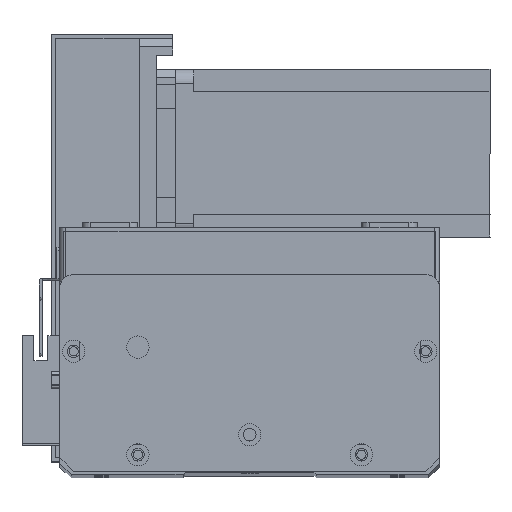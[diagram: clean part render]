
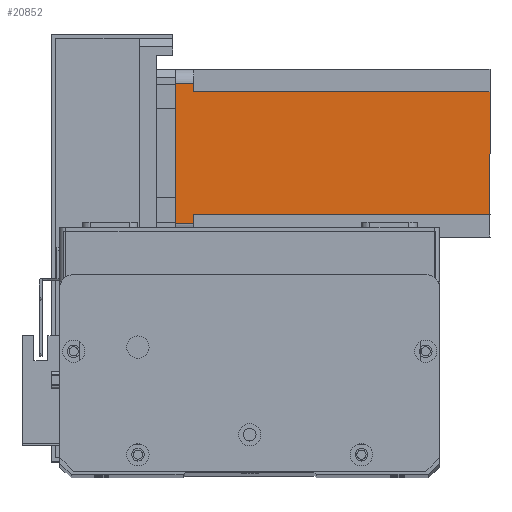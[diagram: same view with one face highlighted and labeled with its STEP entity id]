
A CAD part, top view. The second image highlights one B-rep face of the part: STEP entity #20852.
In plain terms, the highlighted planar face has unit normal (0, 0, 1) as drawn and (0, -1, 0) by its records, which use the part's own axes.
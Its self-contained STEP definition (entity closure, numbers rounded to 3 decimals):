
#745 = DIRECTION ( 'NONE',  ( 0., 0., -1. ) ) ;
#925 = VERTEX_POINT ( 'NONE', #5468 ) ;
#932 = ORIENTED_EDGE ( 'NONE', *, *, #7019, .F. ) ;
#958 = DIRECTION ( 'NONE',  ( 0., 0., 1. ) ) ;
#1188 = DIRECTION ( 'NONE',  ( 1., 0., 0. ) ) ;
#1663 = CARTESIAN_POINT ( 'NONE',  ( 52., 0., -6.5 ) ) ;
#1972 = CARTESIAN_POINT ( 'NONE',  ( 5., 0., -112.5 ) ) ;
#3390 = CARTESIAN_POINT ( 'NONE',  ( 5., 0., -6.5 ) ) ;
#3618 = VERTEX_POINT ( 'NONE', #27083 ) ;
#3734 = CARTESIAN_POINT ( 'NONE',  ( 0., 0., -112.5 ) ) ;
#3858 = ORIENTED_EDGE ( 'NONE', *, *, #14547, .F. ) ;
#3970 = VERTEX_POINT ( 'NONE', #26265 ) ;
#4247 = DIRECTION ( 'NONE',  ( 0., 0., -1. ) ) ;
#4638 = CARTESIAN_POINT ( 'NONE',  ( 55., 0., 0. ) ) ;
#4687 = VERTEX_POINT ( 'NONE', #6644 ) ;
#5468 = CARTESIAN_POINT ( 'NONE',  ( 52., 0., -112.5 ) ) ;
#5526 = ORIENTED_EDGE ( 'NONE', *, *, #27465, .T. ) ;
#6000 = CARTESIAN_POINT ( 'NONE',  ( 8., 0., -6.5 ) ) ;
#6338 = VECTOR ( 'NONE', #958, 1000. ) ;
#6644 = CARTESIAN_POINT ( 'NONE',  ( 55., 0., -6.5 ) ) ;
#7019 = EDGE_CURVE ( 'NONE', #3970, #26593, #14570, .T. ) ;
#7737 = VECTOR ( 'NONE', #8451, 1000. ) ;
#7852 = VECTOR ( 'NONE', #11626, 1000. ) ;
#7891 = ORIENTED_EDGE ( 'NONE', *, *, #10115, .T. ) ;
#8159 = PLANE ( 'NONE',  #24840 ) ;
#8451 = DIRECTION ( 'NONE',  ( 1., 0., 0. ) ) ;
#8574 = LINE ( 'NONE', #18230, #7852 ) ;
#8986 = EDGE_CURVE ( 'NONE', #17577, #925, #24347, .T. ) ;
#9236 = LINE ( 'NONE', #27829, #20382 ) ;
#10115 = EDGE_CURVE ( 'NONE', #3970, #17623, #16305, .T. ) ;
#10525 = DIRECTION ( 'NONE',  ( 0., -1., 0. ) ) ;
#10906 = ORIENTED_EDGE ( 'NONE', *, *, #8986, .F. ) ;
#11626 = DIRECTION ( 'NONE',  ( 0., 0., 1. ) ) ;
#14547 = EDGE_CURVE ( 'NONE', #23186, #3618, #8574, .T. ) ;
#14570 = LINE ( 'NONE', #17298, #19774 ) ;
#14984 = EDGE_CURVE ( 'NONE', #23186, #925, #9236, .T. ) ;
#15082 = DIRECTION ( 'NONE',  ( 1., 0., 0. ) ) ;
#15103 = VECTOR ( 'NONE', #19255, 1000. ) ;
#16305 = LINE ( 'NONE', #1972, #21555 ) ;
#17139 = EDGE_CURVE ( 'NONE', #3618, #17623, #26820, .T. ) ;
#17194 = EDGE_CURVE ( 'NONE', #17577, #4687, #26147, .T. ) ;
#17298 = CARTESIAN_POINT ( 'NONE',  ( 0., 0., 0. ) ) ;
#17577 = VERTEX_POINT ( 'NONE', #18830 ) ;
#17623 = VERTEX_POINT ( 'NONE', #3390 ) ;
#18230 = CARTESIAN_POINT ( 'NONE',  ( 8., 0., -112.5 ) ) ;
#18459 = VECTOR ( 'NONE', #745, 1000. ) ;
#18830 = CARTESIAN_POINT ( 'NONE',  ( 52., 0., -6.5 ) ) ;
#19255 = DIRECTION ( 'NONE',  ( -1., 0., 0. ) ) ;
#19676 = ORIENTED_EDGE ( 'NONE', *, *, #17194, .T. ) ;
#19774 = VECTOR ( 'NONE', #15082, 1000. ) ;
#19958 = CARTESIAN_POINT ( 'NONE',  ( 8., 0., -112.5 ) ) ;
#20382 = VECTOR ( 'NONE', #1188, 1000. ) ;
#20852 = ADVANCED_FACE ( 'NONE', ( #21497 ), #8159, .T. ) ;
#21497 = FACE_OUTER_BOUND ( 'NONE', #22571, .T. ) ;
#21555 = VECTOR ( 'NONE', #4247, 1000. ) ;
#22571 = EDGE_LOOP ( 'NONE', ( #19676, #5526, #932, #7891, #24954, #3858, #22678, #10906 ) ) ;
#22678 = ORIENTED_EDGE ( 'NONE', *, *, #14984, .T. ) ;
#23186 = VERTEX_POINT ( 'NONE', #19958 ) ;
#24091 = LINE ( 'NONE', #27604, #6338 ) ;
#24347 = LINE ( 'NONE', #25188, #18459 ) ;
#24840 = AXIS2_PLACEMENT_3D ( 'NONE', #3734, #10525, #26004 ) ;
#24954 = ORIENTED_EDGE ( 'NONE', *, *, #17139, .F. ) ;
#25188 = CARTESIAN_POINT ( 'NONE',  ( 52., 0., -112.5 ) ) ;
#26004 = DIRECTION ( 'NONE',  ( 0., 0., -1. ) ) ;
#26147 = LINE ( 'NONE', #1663, #7737 ) ;
#26265 = CARTESIAN_POINT ( 'NONE',  ( 5., 0., 0. ) ) ;
#26593 = VERTEX_POINT ( 'NONE', #4638 ) ;
#26820 = LINE ( 'NONE', #6000, #15103 ) ;
#27083 = CARTESIAN_POINT ( 'NONE',  ( 8., 0., -6.5 ) ) ;
#27465 = EDGE_CURVE ( 'NONE', #4687, #26593, #24091, .T. ) ;
#27604 = CARTESIAN_POINT ( 'NONE',  ( 55., 0., -112.5 ) ) ;
#27829 = CARTESIAN_POINT ( 'NONE',  ( 0., 0., -112.5 ) ) ;
